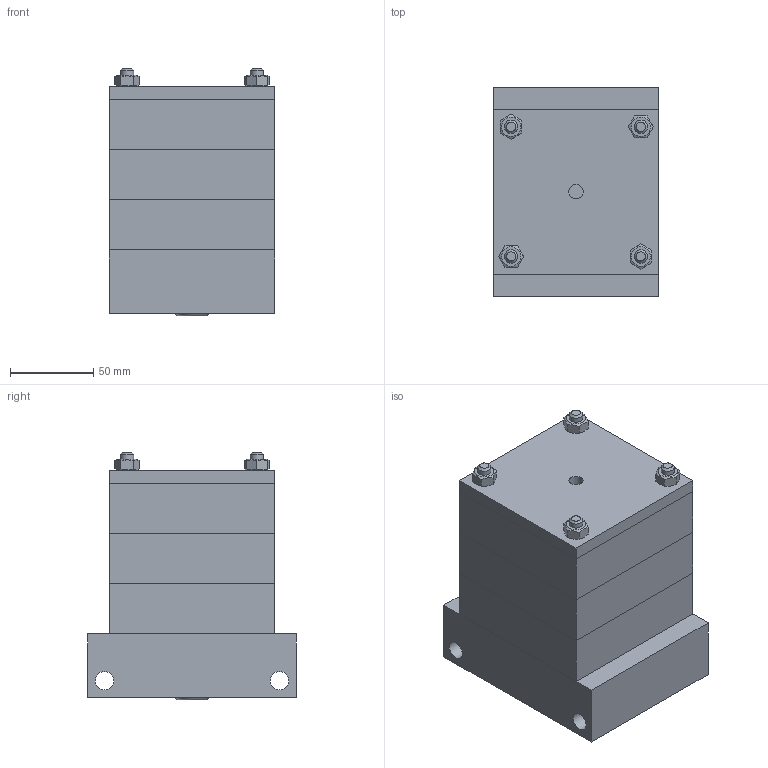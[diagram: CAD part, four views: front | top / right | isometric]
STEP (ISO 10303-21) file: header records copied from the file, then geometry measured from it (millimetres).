
FILE_DESCRIPTION((''),'2;1');
FILE_NAME('C:\VaultWork\Zeichnungen\Maßblätter\Multizylinder\M 90\M90-12\Maßblatt Multizylinder M90-4-12.stp','2016-04-28T09:59:23',('Hinzmann'),(''),'Autodesk Inventor 2012','Autodesk Inventor 2012','');
FILE_SCHEMA(('AUTOMOTIVE_DESIGN { 1 0 10303 214 1 1 1 1 }'));
Length unit declared in the file: millimetre
Products named in the file (7): Maßblatt Multizylinder M90-4-12; Bodenzylinder M90x12; Zylinder M90x12; Block Z02364-4-3 Enddeckel M90; Block Z02600-4-4 Kolbenstange für Grundzelle; Gewindestange M8; DIN EN 24032 M8
Assembly tree (14 placements, depth 2):
  Maßblatt Multizylinder M90-4-12
    Bodenzylinder M90x12
    Zylinder M90x12  x3
    Block Z02364-4-3 Enddeckel M90
    Block Z02600-4-4 Kolbenstange für Grundzelle
    Gewindestange M8  x4
    DIN EN 24032 M8  x4
Bounding box: 99 x 125 x 148.5 mm (x, y, z)
Volume: 1411241.9 mm3; surface area: 172504.1 mm2
Topology: 14 solids, 14 shells, 123 faces, 268 edges, 174 vertices
Faces by surface type: plane 73, cone 26, cylinder 23, torus 1
Full cylindrical faces by diameter (mm): 4 x1, 6.647 x9, 8 x4, 8.566 x2, 9 x4, 11 x2, 15 x1
Entity records: 1725 total; most frequent: DIRECTION 286, CARTESIAN_POINT 277, ORIENTED_EDGE 190, AXIS2_PLACEMENT_3D 122, EDGE_LOOP 108, EDGE_CURVE 95, VERTEX_POINT 77, FACE_OUTER_BOUND 60
